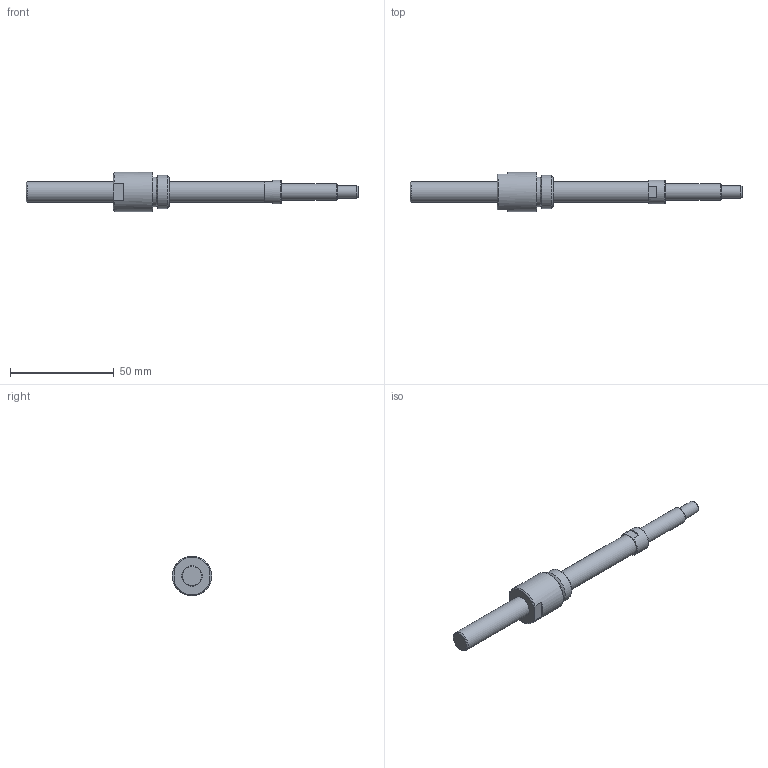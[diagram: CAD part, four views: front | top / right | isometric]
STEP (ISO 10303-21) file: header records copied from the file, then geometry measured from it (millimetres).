
FILE_DESCRIPTION(/* description */ ('STEP AP214'),/* implementation_level */ '2;1');
FILE_NAME(/* name */ 'NSG1002-111R160C5A0X(42)',/* time_stamp */ '2026-08-20T15:48:45+02:00',/* author */ ('License CC BY-ND 4.0'),/* organization */ ('CADENAS'),/* preprocessor_version */ 'ST-DEVELOPER v20',/* originating_system */ 'PARTsolutions',/* authorisation */ ' ');
FILE_SCHEMA (('AUTOMOTIVE_DESIGN {1 0 10303 214 3 1 1}'));
Length unit declared in the file: millimetre
Products named in the file (3): NSG1002-111R160C5A0X(42); NSG1002-111R160C3A_shaft; NSG1002_nut
Assembly tree (2 placements, depth 2):
  NSG1002-111R160C5A0X(42)
    NSG1002-111R160C3A_shaft
    NSG1002_nut
Bounding box: 160 x 19 x 19 mm (x, y, z)
Volume: 16170.9 mm3; surface area: 7724.6 mm2
Topology: 2 solids, 2 shells, 35 faces, 72 edges, 44 vertices
Faces by surface type: plane 17, cone 9, cylinder 8, torus 1
Full cylindrical faces by diameter (mm): 6 x1, 8 x1, 10 x2, 11.5 x1, 14.4 x1, 16 x1, 19 x1
Entity records: 907 total; most frequent: DIRECTION 158, CARTESIAN_POINT 146, ORIENTED_EDGE 108, AXIS2_PLACEMENT_3D 70, EDGE_LOOP 56, FACE_BOUND 56, EDGE_CURVE 54, VERTEX_POINT 42
